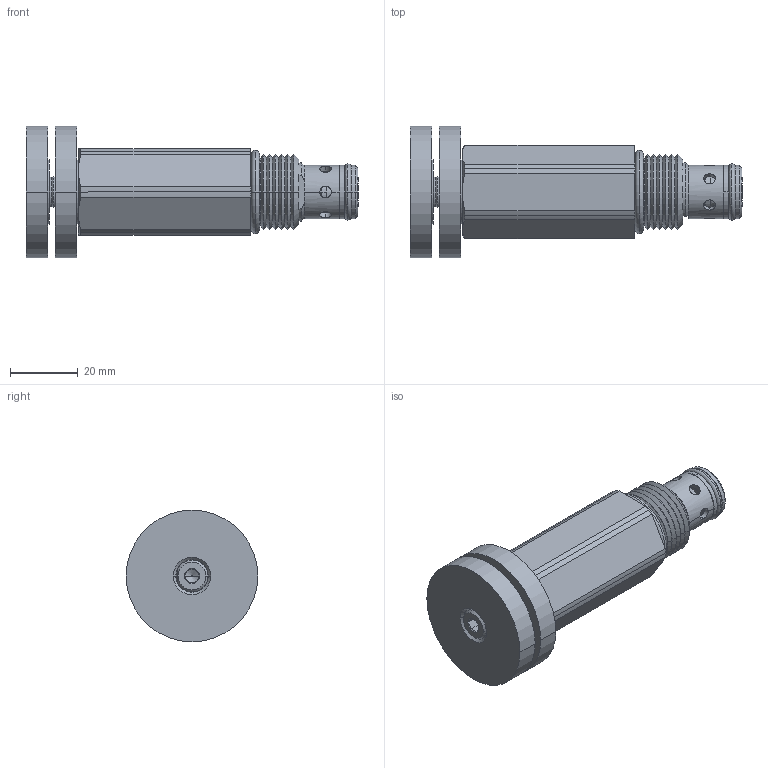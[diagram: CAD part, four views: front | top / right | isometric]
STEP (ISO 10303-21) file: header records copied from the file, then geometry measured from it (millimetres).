
FILE_DESCRIPTION((''),'2;1');
FILE_NAME('U:\Solid model CD\Solid model full\Mechanical\STEP\DERWA0K-3D Full.stp','2008-07-28T16:22:26',('Dan'),(''),'Autodesk Inventor 9','Autodesk Inventor 9','');
FILE_SCHEMA(('AUTOMOTIVE_DESIGN { 1 0 10303 214 1 1 1 1 }'));
Length unit declared in the file: inch
Products named in the file (7): DERWA0K-3D Full; DERWA0K-3D Full1; DERWA0K-3D Full2; DERWA0K-3D Full3; DERWA0K-3D Full4; DERWA0K-3D Full5; DERWA0K-3D Full6
Assembly tree (6 placements, depth 2):
  DERWA0K-3D Full
    DERWA0K-3D Full1
    DERWA0K-3D Full2
    DERWA0K-3D Full3
    DERWA0K-3D Full4
    DERWA0K-3D Full5
    DERWA0K-3D Full6
Bounding box: 97.99 x 38.86 x 38.86 mm (x, y, z)
Volume: 51227.3 mm3; surface area: 16369.9 mm2
Topology: 6 solids, 6 shells, 234 faces, 536 edges, 313 vertices
Faces by surface type: cone 114, cylinder 58, plane 40, bspline 18, torus 4
Entity records: 7547 total; most frequent: CARTESIAN_POINT 2132, DIRECTION 1179, ORIENTED_EDGE 1068, EDGE_CURVE 534, AXIS2_PLACEMENT_3D 494, VERTEX_POINT 313, CIRCLE 265, EDGE_LOOP 261
